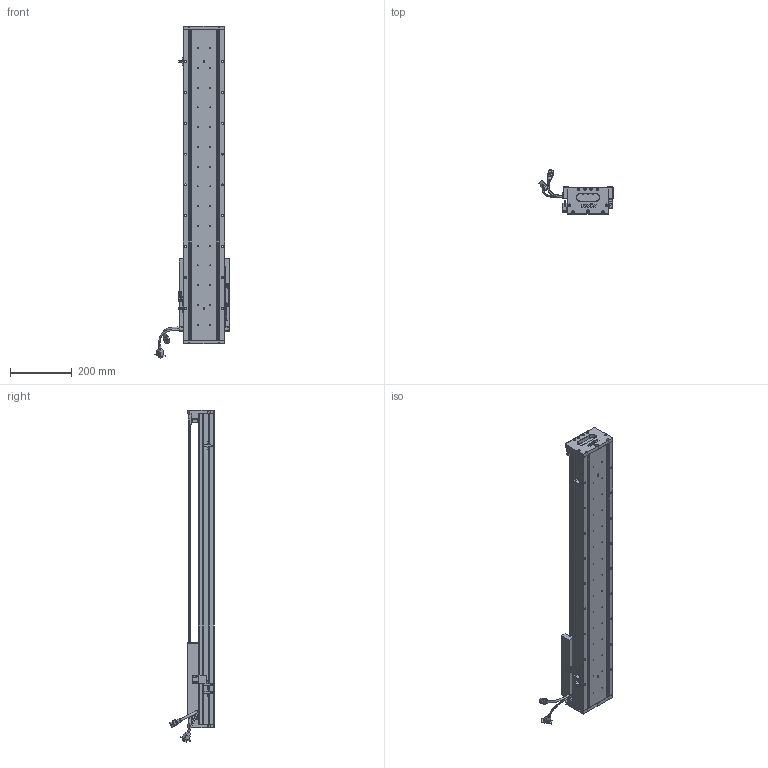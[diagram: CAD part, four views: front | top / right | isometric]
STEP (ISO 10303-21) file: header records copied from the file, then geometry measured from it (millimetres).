
FILE_DESCRIPTION (( 'STEP AP203' ), '1' );
FILE_NAME ('Z3-RY140D-1-L500-B-K.SLDASM_0700.step', '2021-05-17T08:00:36', ( '盈信电脑' ), ( '东莞市道滘镇水果街19号' ), 'SwSTEP 2.0', 'SolidWorks 2016', '' );
FILE_SCHEMA (( 'CONFIG_CONTROL_DESIGN' ));
Length unit declared in the file: millimetre
Products named in the file (36): LABEL; SCREW-M1.6-3; Z3-RY140-L500詩湍100mm遵_0700; SEAL; Z3-RY140D-1-L500-B-K.SLDASM_0700; 080黍杅芛假蚾釱21遴; Z3-RY140圉猾敕臏賑輸(21遴); SCALE-Part-2; SCALE; HARNESS; SCREW-M1.7; 140雄赽晤鎢ん堤盄; HOLDER0; SHIELDPLATE; SCREW-M1.6-1; 榋妏寠巭燃_暯_M2_2; 140蚥薯蝶輸; 覜茼ん672; PBU_SHEET; PSLH080_PSLF2; LABEL-Part-1; HARNESS-Part-1; Z-RY140感应器672光电感应片; SCREW-M1.6-2; SEAL-Part-1; SCALE-Part-1; SCREW-M1.6; HARNESS-Part-2; Z-140詩湍傷裔啣; 140-Z-臏賑輸盄裔(21遴); Z3-RY140-L500直线电机模组底座_0700; Z-RY140詩湍狟揤裔; SCREW-M1.7-1; COVER-Part-1; Z-RY140詩湍奻揤裔; COVER
Assembly tree (41 placements, depth 4):
  Z3-RY140D-1-L500-B-K.SLDASM_0700
    Z3-RY140-L500直线电机模组底座_0700
    Z-RY140感应器672光电感应片
    Z3-RY140圉猾敕臏賑輸(21遴)
    覜茼ん672  x3
    Z3-RY140-L500詩湍100mm遵_0700
    PSLH080_PSLF2
      SCALE
        SCALE-Part-1
        SCALE-Part-2
      HARNESS
        HARNESS-Part-1
        HARNESS-Part-2
      LABEL
        LABEL-Part-1
      COVER
        COVER-Part-1
      SEAL
        SEAL-Part-1
      榋妏寠巭燃_暯_M2_2
      SHIELDPLATE
      SCREW-M1.7
      SCREW-M1.7-1
      PBU_SHEET
      SCREW-M1.6
      SCREW-M1.6-1
      SCREW-M1.6-2
      SCREW-M1.6-3
      HOLDER0
    080黍杅芛假蚾釱21遴
    140-Z-臏賑輸盄裔(21遴)
    Z-140詩湍傷裔啣  x2
    Z-RY140詩湍狟揤裔  x2
    Z-RY140詩湍奻揤裔  x2
    140蚥薯蝶輸  x2
    140雄赽晤鎢ん堤盄
Bounding box: 239.84 x 143.88 x 1075.88 mm (x, y, z)
Volume: 4050790.6 mm3; surface area: 1041055.6 mm2
Topology: 36 solids, 36 shells, 2912 faces, 7656 edges, 4841 vertices
Faces by surface type: cylinder 1362, plane 1130, cone 298, torus 69, bspline 53
Entity records: 84760 total; most frequent: CARTESIAN_POINT 21129, ORIENTED_EDGE 12440, DIRECTION 12404, EDGE_CURVE 6220, AXIS2_PLACEMENT_3D 4564, VERTEX_POINT 4009, LINE 3276, VECTOR 3276
